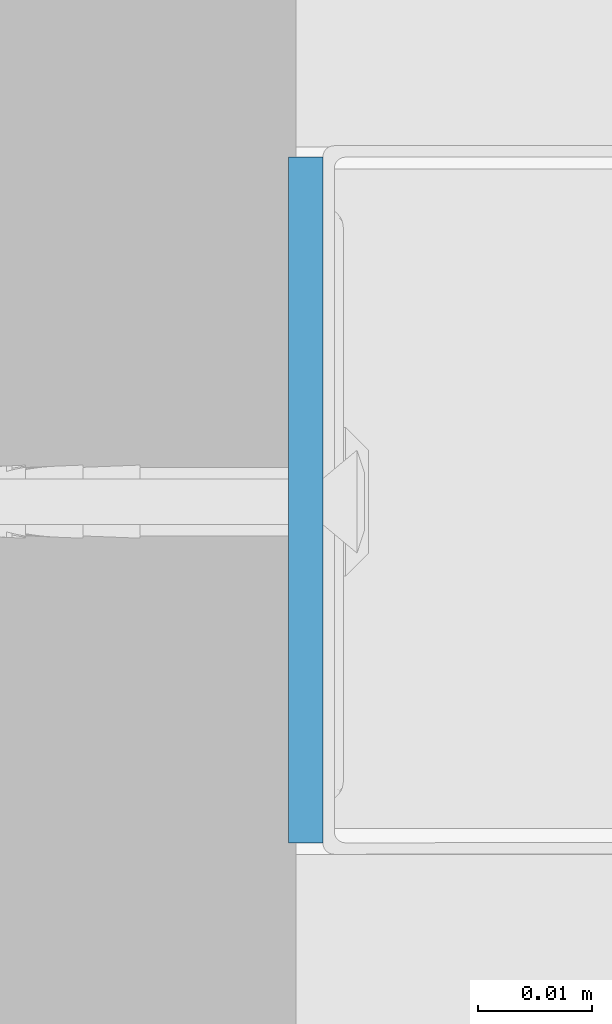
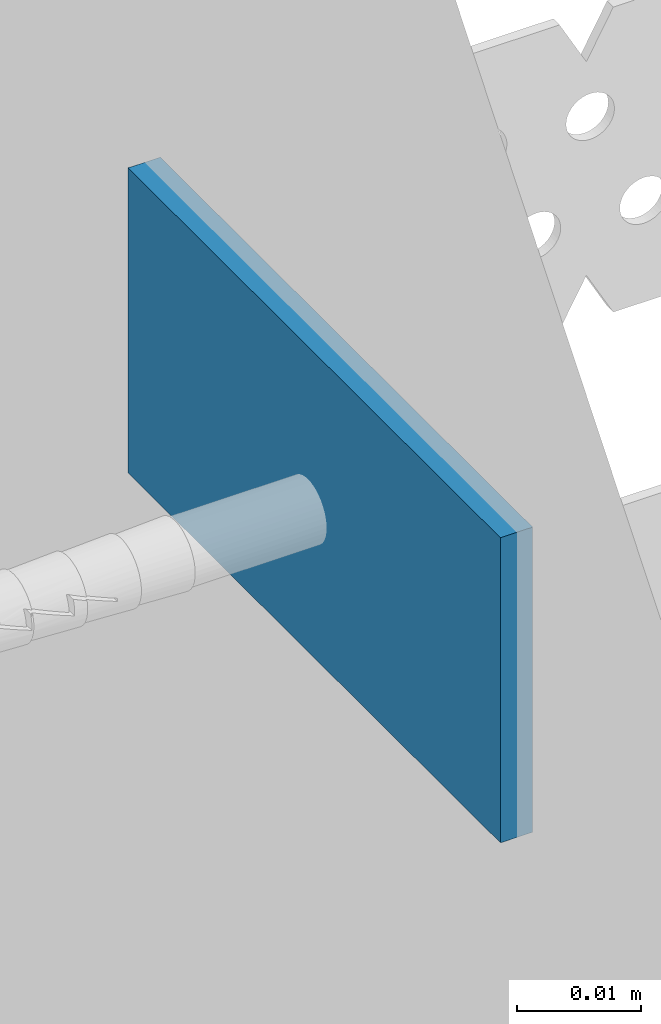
# One storey, part 54 of 61: 1 wall.
"""IFC2X3 building model written with IfcOpenShell, lengths in millimetres."""

from ifc_helpers import new_model, si_unit, frame, origin_with_axes, place, context, subcontext, project, spatial, faceted_brep, material, type_object, element, save


model = new_model("IFC2X3")

# Units and contexts
model_context = context("Model", 3, world=origin_with_axes())
body_context = subcontext(model_context, "Body", "Model", "MODEL_VIEW")
ifc_project = project(units=[si_unit("LENGTHUNIT", "METRE", prefix="MILLI"), si_unit("AREAUNIT", "SQUARE_METRE"), si_unit("VOLUMEUNIT", "CUBIC_METRE")], contexts=[model_context])

# Site, building, storey
site_placement = place(None, frame((2152.1410261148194, -2015.0250894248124, 57.61556563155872), z_axis=(0.0, 0.0, 1.0), x_axis=(-1.1102230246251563e-16, 1.0, 0.0)))
site = spatial("IfcSite", under=ifc_project, at=site_placement, Name="Default Site", CompositionType="ELEMENT")
building_placement = place(site_placement, origin_with_axes())
building = spatial("IfcBuilding", under=site, at=building_placement, Name="Default Building", CompositionType="ELEMENT")
storey_placement = place(building_placement, origin_with_axes())
storey = spatial("IfcBuildingStorey", under=building, at=storey_placement, Name="Default Building Storey", CompositionType="ELEMENT", Elevation=57.61556563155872)

# Wall
ifc_material = material(Name="Default")
wall_type = type_object("IfcWallType", Name="Taśma uszczelniająca piankowa RIGIPS szer.30mm#1", PredefinedType="NOTDEFINED")
wall_placement = place(storey_placement, frame((3408.037086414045, 2019.7786110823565, 1278.84966049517), z_axis=(0.0, 0.0, 1.0), x_axis=(1.0, 0.0, 0.0)))
element("IfcWall", 1, at=wall_placement, inside=storey, type_object=wall_type, material=ifc_material, Name="Taśma uszczelniająca piankowa RIGIPS szer.30mm", context=body_context, shape_type="Brep", body=[
    faceted_brep([(59.99999865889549, 0.0, 4.511946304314e-12), (0.0, 0.0, 0.0), (1.0828671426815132e-12, -2.2379254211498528e-11, -29.999999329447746), (59.99999865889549, -2.2379254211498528e-11, -29.999999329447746), (0.0, 3.000000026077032, 0.0), (1.0828671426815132e-12, 3.000000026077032, -29.999999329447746), (59.99999865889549, 3.000000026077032, 0.0), (59.99999865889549, 3.000000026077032, -29.999999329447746)], [[[0, 1, 2, 3]], [[1, 4, 5, 2]], [[4, 6, 7, 5]], [[6, 0, 3, 7]], [[7, 3, 2, 5]], [[0, 6, 4, 1]]]),
])

save(model, "model.ifc")
